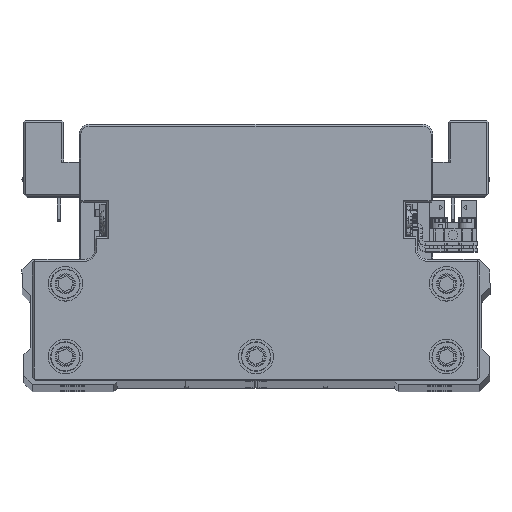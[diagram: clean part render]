
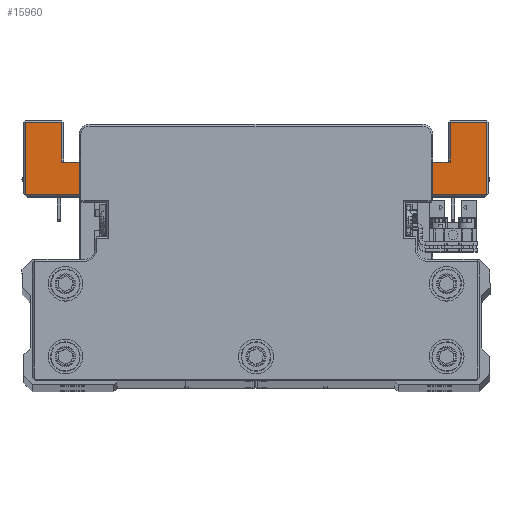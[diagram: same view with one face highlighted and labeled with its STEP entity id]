
A CAD part, top view. The second image highlights one B-rep face of the part: STEP entity #15960.
In plain terms, the highlighted planar face has unit normal (0, 0, 1) as drawn and (0, -1, 0) by its records, which use the part's own axes.
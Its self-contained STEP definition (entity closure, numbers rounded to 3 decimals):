
#846 = LINE ( 'NONE', #13344, #17427 ) ;
#869 = EDGE_CURVE ( 'NONE', #32589, #4708, #34335, .T. ) ;
#1062 = CARTESIAN_POINT ( 'NONE',  ( 66.5, -45., -43. ) ) ;
#1307 = CARTESIAN_POINT ( 'NONE',  ( 39.868, -45., -42.987 ) ) ;
#1458 = VERTEX_POINT ( 'NONE', #10237 ) ;
#1706 = CARTESIAN_POINT ( 'NONE',  ( 66.5, -45., -43.5 ) ) ;
#2185 = ORIENTED_EDGE ( 'NONE', *, *, #37369, .T. ) ;
#2400 = AXIS2_PLACEMENT_3D ( 'NONE', #28019, #40545, #12426 ) ;
#2470 = CARTESIAN_POINT ( 'NONE',  ( 40.066, -45., -41.5 ) ) ;
#2774 = CARTESIAN_POINT ( 'NONE',  ( 55.5, -45., -52.5 ) ) ;
#2839 = CARTESIAN_POINT ( 'NONE',  ( 67., -45., -64. ) ) ;
#2986 = FACE_OUTER_BOUND ( 'NONE', #32832, .T. ) ;
#3406 = DIRECTION ( 'NONE',  ( 1., 0., 0. ) ) ;
#3752 = AXIS2_PLACEMENT_3D ( 'NONE', #2470, #14983, #27503 ) ;
#4152 = DIRECTION ( 'NONE',  ( 0., 0., -1. ) ) ;
#4304 = CARTESIAN_POINT ( 'NONE',  ( -39.868, -45., -42.987 ) ) ;
#4424 = ORIENTED_EDGE ( 'NONE', *, *, #29760, .T. ) ;
#4708 = VERTEX_POINT ( 'NONE', #9057 ) ;
#4800 = VERTEX_POINT ( 'NONE', #34715 ) ;
#5962 = CARTESIAN_POINT ( 'NONE',  ( -46., -45., -52.5 ) ) ;
#5991 = LINE ( 'NONE', #18496, #19308 ) ;
#6206 = CARTESIAN_POINT ( 'NONE',  ( 46., -45., -52.5 ) ) ;
#7089 = VECTOR ( 'NONE', #15288, 1000. ) ;
#7380 = EDGE_CURVE ( 'NONE', #13626, #1458, #27494, .T. ) ;
#7479 = CARTESIAN_POINT ( 'NONE',  ( -40.066, -45., -41.5 ) ) ;
#7506 = VECTOR ( 'NONE', #35855, 1000. ) ;
#7987 = EDGE_CURVE ( 'NONE', #35783, #40210, #40483, .T. ) ;
#8135 = ORIENTED_EDGE ( 'NONE', *, *, #30843, .F. ) ;
#8398 = VECTOR ( 'NONE', #4152, 1000. ) ;
#8685 = VERTEX_POINT ( 'NONE', #21879 ) ;
#8795 = VERTEX_POINT ( 'NONE', #1307 ) ;
#9057 = CARTESIAN_POINT ( 'NONE',  ( 46., -45., -54. ) ) ;
#9196 = DIRECTION ( 'NONE',  ( -1., 0., 0. ) ) ;
#9337 = VERTEX_POINT ( 'NONE', #33066 ) ;
#9377 = CARTESIAN_POINT ( 'NONE',  ( -46., -45., -52.5 ) ) ;
#9558 = VECTOR ( 'NONE', #3406, 1000. ) ;
#9799 = CARTESIAN_POINT ( 'NONE',  ( 25.802, -45., -41.111 ) ) ;
#10237 = CARTESIAN_POINT ( 'NONE',  ( -66.5, -45., -64. ) ) ;
#10802 = LINE ( 'NONE', #23297, #7506 ) ;
#10863 = DIRECTION ( 'NONE',  ( 0., 1., 0. ) ) ;
#11522 = ORIENTED_EDGE ( 'NONE', *, *, #23389, .T. ) ;
#11675 = VERTEX_POINT ( 'NONE', #32288 ) ;
#11893 = DIRECTION ( 'NONE',  ( 0., 0., -1. ) ) ;
#11920 = EDGE_CURVE ( 'NONE', #40210, #18330, #5991, .T. ) ;
#12424 = LINE ( 'NONE', #24928, #24588 ) ;
#12426 = DIRECTION ( 'NONE',  ( 0., 0., -1. ) ) ;
#13318 = EDGE_CURVE ( 'NONE', #8685, #13626, #846, .T. ) ;
#13344 = CARTESIAN_POINT ( 'NONE',  ( -66., -45., -43. ) ) ;
#13626 = VERTEX_POINT ( 'NONE', #36939 ) ;
#14063 = VERTEX_POINT ( 'NONE', #9377 ) ;
#14220 = DIRECTION ( 'NONE',  ( 0., 0., 1. ) ) ;
#14801 = VERTEX_POINT ( 'NONE', #23644 ) ;
#14983 = DIRECTION ( 'NONE',  ( 0., 1., 0. ) ) ;
#15288 = DIRECTION ( 'NONE',  ( -1., 0., 0. ) ) ;
#15332 = VECTOR ( 'NONE', #34332, 1000. ) ;
#15354 = DIRECTION ( 'NONE',  ( 1., 0., 0. ) ) ;
#15501 = PLANE ( 'NONE',  #2400 ) ;
#15711 = ORIENTED_EDGE ( 'NONE', *, *, #13318, .T. ) ;
#15960 = ADVANCED_FACE ( 'NONE', ( #2986 ), #15501, .T. ) ;
#17427 = VECTOR ( 'NONE', #25864, 1000. ) ;
#18330 = VERTEX_POINT ( 'NONE', #4304 ) ;
#18466 = DIRECTION ( 'NONE',  ( 0., 0., 1. ) ) ;
#18496 = CARTESIAN_POINT ( 'NONE',  ( -39.868, -45., -42.987 ) ) ;
#18711 = DIRECTION ( 'NONE',  ( 0., 0., -1. ) ) ;
#18987 = LINE ( 'NONE', #31521, #9558 ) ;
#19085 = EDGE_CURVE ( 'NONE', #34933, #11675, #19734, .T. ) ;
#19308 = VECTOR ( 'NONE', #31032, 1000. ) ;
#19734 = LINE ( 'NONE', #32274, #8398 ) ;
#20486 = CARTESIAN_POINT ( 'NONE',  ( -36.217, -45., -42.5 ) ) ;
#20685 = VECTOR ( 'NONE', #18466, 1000. ) ;
#20934 = ORIENTED_EDGE ( 'NONE', *, *, #19085, .T. ) ;
#21019 = CARTESIAN_POINT ( 'NONE',  ( -56., -45., -52.5 ) ) ;
#21420 = CIRCLE ( 'NONE', #3752, 1.5 ) ;
#21776 = CARTESIAN_POINT ( 'NONE',  ( -77.786, -45., -42.5 ) ) ;
#21878 = CARTESIAN_POINT ( 'NONE',  ( 36.217, -45., -42.5 ) ) ;
#21879 = CARTESIAN_POINT ( 'NONE',  ( -40.066, -45., -43. ) ) ;
#21882 = LINE ( 'NONE', #34442, #27212 ) ;
#22221 = ORIENTED_EDGE ( 'NONE', *, *, #37236, .T. ) ;
#22301 = DIRECTION ( 'NONE',  ( -0.991, 0., 0.132 ) ) ;
#22668 = AXIS2_PLACEMENT_3D ( 'NONE', #7479, #10863, #23355 ) ;
#23297 = CARTESIAN_POINT ( 'NONE',  ( 46., -45., -54. ) ) ;
#23355 = DIRECTION ( 'NONE',  ( 0., 0., -1. ) ) ;
#23389 = EDGE_CURVE ( 'NONE', #33236, #25476, #21882, .T. ) ;
#23644 = CARTESIAN_POINT ( 'NONE',  ( -46., -45., -54. ) ) ;
#23849 = EDGE_CURVE ( 'NONE', #1458, #9337, #18987, .T. ) ;
#23858 = VECTOR ( 'NONE', #22301, 1000. ) ;
#24588 = VECTOR ( 'NONE', #37462, 1000. ) ;
#24786 = LINE ( 'NONE', #37324, #38428 ) ;
#24928 = CARTESIAN_POINT ( 'NONE',  ( -56., -45., -52.5 ) ) ;
#25038 = ORIENTED_EDGE ( 'NONE', *, *, #869, .F. ) ;
#25476 = VERTEX_POINT ( 'NONE', #31673 ) ;
#25864 = DIRECTION ( 'NONE',  ( -1., 0., 0. ) ) ;
#27212 = VECTOR ( 'NONE', #39575, 1000. ) ;
#27284 = ORIENTED_EDGE ( 'NONE', *, *, #32585, .F. ) ;
#27494 = LINE ( 'NONE', #40018, #31686 ) ;
#27503 = DIRECTION ( 'NONE',  ( 0., 0., -1. ) ) ;
#27800 = CARTESIAN_POINT ( 'NONE',  ( 46., -45., -52.5 ) ) ;
#28019 = CARTESIAN_POINT ( 'NONE',  ( 0., -45., 0. ) ) ;
#28750 = EDGE_CURVE ( 'NONE', #4800, #33236, #29818, .T. ) ;
#29317 = ORIENTED_EDGE ( 'NONE', *, *, #30431, .F. ) ;
#29760 = EDGE_CURVE ( 'NONE', #9337, #33739, #12424, .T. ) ;
#29818 = LINE ( 'NONE', #1706, #35684 ) ;
#30235 = ORIENTED_EDGE ( 'NONE', *, *, #7987, .T. ) ;
#30431 = EDGE_CURVE ( 'NONE', #14801, #14063, #34094, .T. ) ;
#30649 = ORIENTED_EDGE ( 'NONE', *, *, #39076, .T. ) ;
#30843 = EDGE_CURVE ( 'NONE', #14063, #33739, #24786, .T. ) ;
#30888 = LINE ( 'NONE', #2774, #7089 ) ;
#30954 = LINE ( 'NONE', #2839, #35759 ) ;
#31032 = DIRECTION ( 'NONE',  ( -0.991, 0., -0.132 ) ) ;
#31174 = ORIENTED_EDGE ( 'NONE', *, *, #11920, .T. ) ;
#31521 = CARTESIAN_POINT ( 'NONE',  ( -55.5, -45., -64. ) ) ;
#31609 = EDGE_CURVE ( 'NONE', #25476, #8795, #21420, .T. ) ;
#31639 = CARTESIAN_POINT ( 'NONE',  ( 56., -45., -52.5 ) ) ;
#31673 = CARTESIAN_POINT ( 'NONE',  ( 40.066, -45., -43. ) ) ;
#31686 = VECTOR ( 'NONE', #11893, 1000. ) ;
#31967 = ORIENTED_EDGE ( 'NONE', *, *, #38338, .T. ) ;
#32274 = CARTESIAN_POINT ( 'NONE',  ( 56., -45., -64.5 ) ) ;
#32288 = CARTESIAN_POINT ( 'NONE',  ( 56., -45., -64. ) ) ;
#32585 = EDGE_CURVE ( 'NONE', #34933, #32589, #30888, .T. ) ;
#32589 = VERTEX_POINT ( 'NONE', #27800 ) ;
#32832 = EDGE_LOOP ( 'NONE', ( #30235, #31174, #30649, #15711, #38279, #35189, #4424, #8135, #29317, #2185, #25038, #27284, #20934, #31967, #34019, #11522, #40288, #22221 ) ) ;
#33066 = CARTESIAN_POINT ( 'NONE',  ( -56., -45., -64. ) ) ;
#33236 = VERTEX_POINT ( 'NONE', #1062 ) ;
#33739 = VERTEX_POINT ( 'NONE', #21019 ) ;
#34019 = ORIENTED_EDGE ( 'NONE', *, *, #28750, .T. ) ;
#34094 = LINE ( 'NONE', #5962, #20685 ) ;
#34332 = DIRECTION ( 'NONE',  ( -1., 0., 0. ) ) ;
#34335 = LINE ( 'NONE', #6206, #37327 ) ;
#34442 = CARTESIAN_POINT ( 'NONE',  ( 40.066, -45., -43. ) ) ;
#34715 = CARTESIAN_POINT ( 'NONE',  ( 66.5, -45., -64. ) ) ;
#34933 = VERTEX_POINT ( 'NONE', #31639 ) ;
#35189 = ORIENTED_EDGE ( 'NONE', *, *, #23849, .T. ) ;
#35684 = VECTOR ( 'NONE', #14220, 1000. ) ;
#35759 = VECTOR ( 'NONE', #15354, 1000. ) ;
#35783 = VERTEX_POINT ( 'NONE', #21878 ) ;
#35855 = DIRECTION ( 'NONE',  ( 1., 0., 0. ) ) ;
#36939 = CARTESIAN_POINT ( 'NONE',  ( -66.5, -45., -43. ) ) ;
#37236 = EDGE_CURVE ( 'NONE', #8795, #35783, #37923, .T. ) ;
#37324 = CARTESIAN_POINT ( 'NONE',  ( -55.5, -45., -52.5 ) ) ;
#37327 = VECTOR ( 'NONE', #18711, 1000. ) ;
#37369 = EDGE_CURVE ( 'NONE', #14801, #4708, #10802, .T. ) ;
#37462 = DIRECTION ( 'NONE',  ( 0., 0., 1. ) ) ;
#37923 = LINE ( 'NONE', #9799, #23858 ) ;
#38279 = ORIENTED_EDGE ( 'NONE', *, *, #7380, .T. ) ;
#38338 = EDGE_CURVE ( 'NONE', #11675, #4800, #30954, .T. ) ;
#38428 = VECTOR ( 'NONE', #9196, 1000. ) ;
#39076 = EDGE_CURVE ( 'NONE', #18330, #8685, #40387, .T. ) ;
#39575 = DIRECTION ( 'NONE',  ( -1., 0., 0. ) ) ;
#40018 = CARTESIAN_POINT ( 'NONE',  ( -66.5, -45., -64.5 ) ) ;
#40210 = VERTEX_POINT ( 'NONE', #20486 ) ;
#40288 = ORIENTED_EDGE ( 'NONE', *, *, #31609, .T. ) ;
#40387 = CIRCLE ( 'NONE', #22668, 1.5 ) ;
#40483 = LINE ( 'NONE', #21776, #15332 ) ;
#40545 = DIRECTION ( 'NONE',  ( 0., -1., 0. ) ) ;
